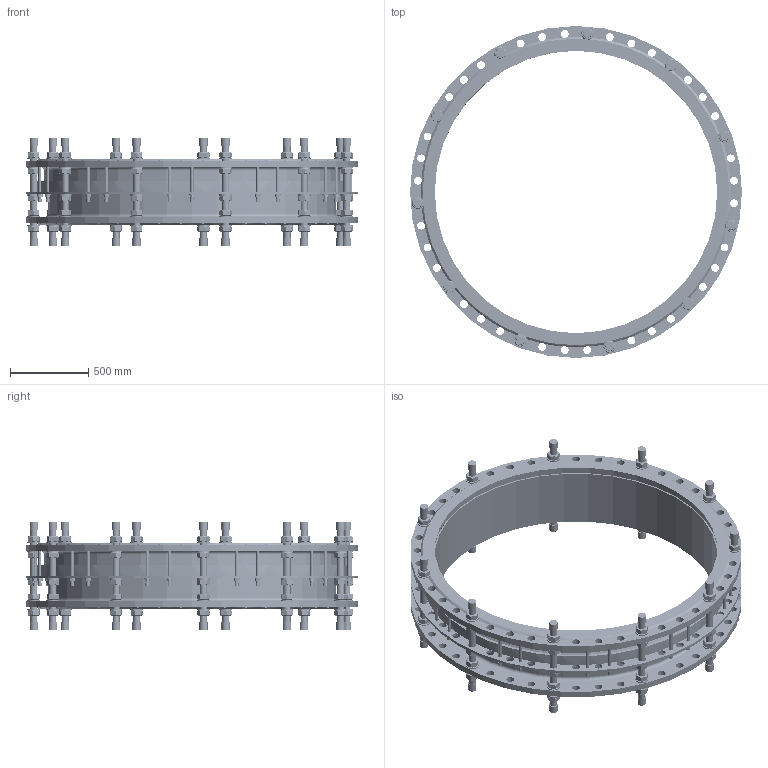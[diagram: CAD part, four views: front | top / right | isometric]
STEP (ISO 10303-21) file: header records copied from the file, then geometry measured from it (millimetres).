
FILE_DESCRIPTION(('STEP AP242'), '1');
FILE_NAME('Ìîíòàæíàÿ âñòàâêà', '', ('UNSPECIFIED'), ('UNSPECIFIED'), 'C3D Converter', 'C3D Toolkit', '');
FILE_SCHEMA(('AP242_MANAGED_MODEL_BASED_3D_ENGINEERING_MIM_LF { 1 0 10303 442 1 1 4 }'));
Length unit declared in the file: millimetre
Products named in the file (13): ШМ.М16.310; ШМ.М16.206
Assembly tree (235 placements, depth 2):
  (unnamed)
    (unnamed)
    (unnamed)
    (unnamed)
    (unnamed)
    (unnamed)  x55
    (unnamed)  x55
    ШМ.М16.310  x11
    (unnamed)  x22
    (unnamed)  x22
    (unnamed)  x22
    ШМ.М16.206  x22
    (unnamed)  x22
Bounding box: 2115 x 2115 x 689 mm (x, y, z)
Volume: 175928335 mm3; surface area: 17411611.6 mm2
Topology: 239 solids, 239 shells, 2024 faces, 4501 edges, 2896 vertices
Faces by surface type: plane 1037, cylinder 550, cone 380, torus 46, extrusion 11
Full cylindrical faces by diameter (mm): 20 x88, 21 x22, 23 x22, 24 x22, 33.221 x1, 37 x22, 45 x88, 46 x55, 50 x132, 54 x22, 82 x55, 1800 x2, 1836 x2, 1854 x2, 1890 x1, 1908 x1, 1934 x1, 1970 x1, 2115 x3
Entity records: 29559 total; most frequent: CARTESIAN_POINT 12808, DIRECTION 2636, ORIENTED_EDGE 1890, AXIS2_PLACEMENT_3D 1281, EDGE_CURVE 945, EDGE_LOOP 843, VERTEX_POINT 760, CIRCLE 714
